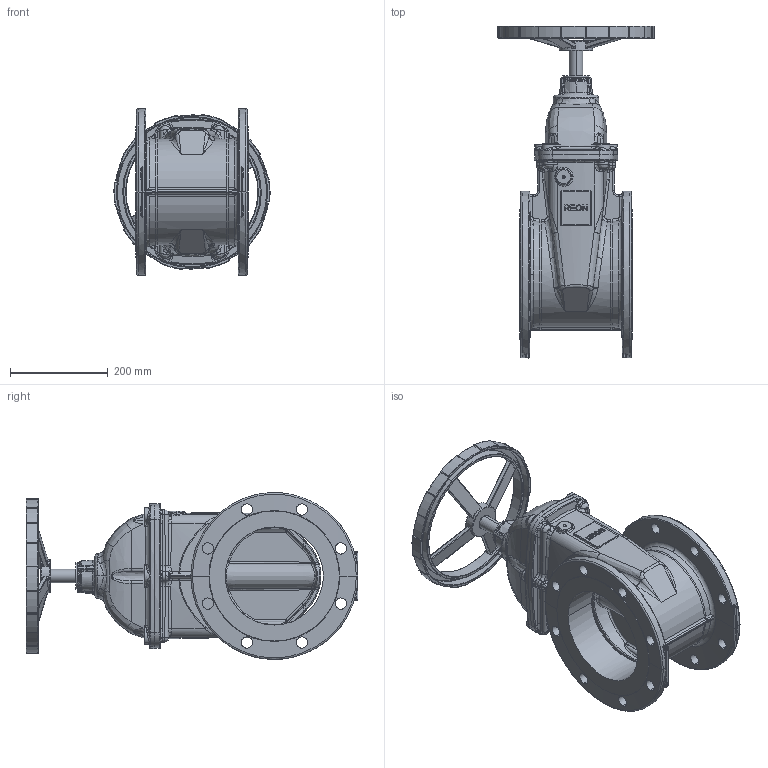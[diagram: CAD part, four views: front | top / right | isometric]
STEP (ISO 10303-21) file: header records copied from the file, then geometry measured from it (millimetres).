
FILE_DESCRIPTION (( 'STEP AP203' ), '1' );
FILE_NAME ('DN200掅概.STEP', '2026-09-23T03:53:40', ( 'Windows 蚚誧' ), ( 'Microsoft' ), 'SwSTEP 2.0', 'SolidWorks 2022', '' );
FILE_SCHEMA (( 'CONFIG_CONTROL_DESIGN' ));
Products named in the file (8): DN200阀板; DN200闸阀; DN200上铜母; hexagon socket head cap screws gb_GB_FASTENER_SCREWS_HSHCS M12X25-N; DN200阀盖; D320手轮; DN200阀体; DN200阀杆
Assembly tree (13 placements, depth 2):
  DN200闸阀
    DN200阀体
    DN200阀盖
    hexagon socket head cap screws gb_GB_FASTENER_SCREWS_HSHCS M12X25-N  x6
    DN200阀板  x2
    DN200上铜母
    D320手轮
    DN200阀杆
Bounding box: 319.95 x 679.96 x 341.7 mm (x, y, z)
Volume: 6944023.4 mm3; surface area: 1472686.8 mm2
Topology: 13 solids, 13 shells, 2118 faces, 4994 edges, 2884 vertices
Faces by surface type: bspline 1072, cylinder 443, plane 306, torus 155, sphere 89, cone 53
Entity records: 106791 total; most frequent: CARTESIAN_POINT 74335, ORIENTED_EDGE 8366, EDGE_CURVE 4183, DIRECTION 4133, VERTEX_POINT 2427, B_SPLINE_CURVE_WITH_KNOTS 1951, EDGE_LOOP 1876, FACE_OUTER_BOUND 1792
